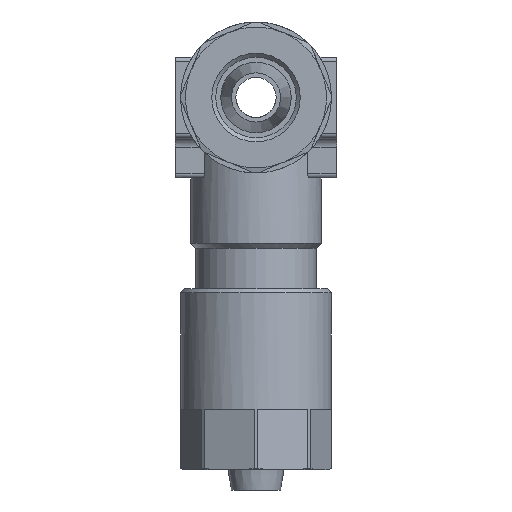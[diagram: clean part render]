
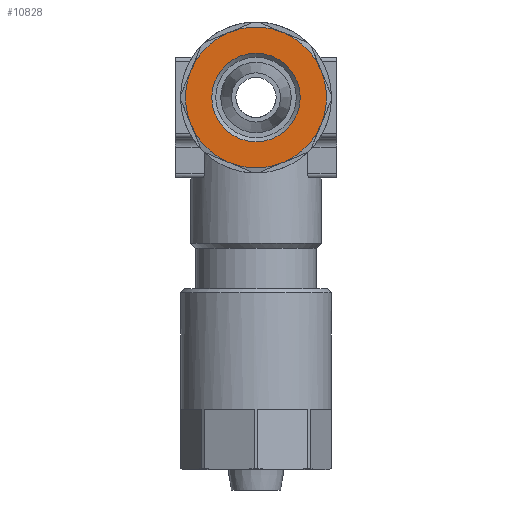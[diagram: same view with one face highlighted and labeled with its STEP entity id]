
A CAD part, left-side view. The second image highlights one B-rep face of the part: STEP entity #10828.
In plain terms, the highlighted planar face has unit normal (-1, 0, 0) as drawn and (0, 1, 0) by its records, which use the part's own axes.
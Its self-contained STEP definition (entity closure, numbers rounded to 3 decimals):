
#3971=PLANE('',#10586);
#4549=ORIENTED_EDGE('',*,*,#5352,.T.);
#4550=ORIENTED_EDGE('',*,*,#5353,.F.);
#4551=ORIENTED_EDGE('',*,*,#5354,.F.);
#4552=ORIENTED_EDGE('',*,*,#5355,.T.);
#4553=ORIENTED_EDGE('',*,*,#5356,.T.);
#4554=ORIENTED_EDGE('',*,*,#5357,.T.);
#4555=ORIENTED_EDGE('',*,*,#5358,.T.);
#4556=ORIENTED_EDGE('',*,*,#5359,.T.);
#4557=ORIENTED_EDGE('',*,*,#5351,.T.);
#4803=CIRCLE('',#10585,2.2);
#4804=CIRCLE('',#10587,3.5);
#4805=CIRCLE('',#10588,3.5);
#4806=CIRCLE('',#10589,3.5);
#4807=CIRCLE('',#10590,3.5);
#4808=CIRCLE('',#10591,3.5);
#4809=CIRCLE('',#10592,3.5);
#4810=CIRCLE('',#10593,3.5);
#4811=CIRCLE('',#10594,3.5);
#5028=VERTEX_POINT('',#10150);
#5029=VERTEX_POINT('',#10153);
#5030=VERTEX_POINT('',#10154);
#5031=VERTEX_POINT('',#10156);
#5032=VERTEX_POINT('',#10158);
#5033=VERTEX_POINT('',#10160);
#5034=VERTEX_POINT('',#10162);
#5035=VERTEX_POINT('',#10164);
#5036=VERTEX_POINT('',#10166);
#5351=EDGE_CURVE('',#5028,#5028,#4803,.T.);
#5352=EDGE_CURVE('',#5029,#5030,#4804,.T.);
#5353=EDGE_CURVE('',#5031,#5030,#4805,.T.);
#5354=EDGE_CURVE('',#5032,#5031,#4806,.T.);
#5355=EDGE_CURVE('',#5032,#5033,#4807,.T.);
#5356=EDGE_CURVE('',#5033,#5034,#4808,.T.);
#5357=EDGE_CURVE('',#5034,#5035,#4809,.T.);
#5358=EDGE_CURVE('',#5035,#5036,#4810,.T.);
#5359=EDGE_CURVE('',#5036,#5029,#4811,.T.);
#5602=EDGE_LOOP('',(#4549,#4550,#4551,#4552,#4553,#4554,#4555,#4556));
#5603=EDGE_LOOP('',(#4557));
#5820=FACE_BOUND('',#5602,.T.);
#5821=FACE_BOUND('',#5603,.T.);
#6540=DIRECTION('',(0.,-1.,0.));
#6541=DIRECTION('',(0.,0.,-2.2));
#6542=DIRECTION('',(0.,1.,0.));
#6543=DIRECTION('',(1.,0.,0.));
#6544=DIRECTION('',(0.,1.,0.));
#6545=DIRECTION('',(0.,0.,-3.5));
#6546=DIRECTION('',(0.,-1.,0.));
#6547=DIRECTION('',(0.,0.,3.5));
#6548=DIRECTION('',(0.,-1.,0.));
#6549=DIRECTION('',(0.,0.,3.5));
#6550=DIRECTION('',(0.,1.,0.));
#6551=DIRECTION('',(0.,0.,-3.5));
#6552=DIRECTION('',(0.,1.,0.));
#6553=DIRECTION('',(0.,0.,-3.5));
#6554=DIRECTION('',(0.,1.,0.));
#6555=DIRECTION('',(0.,0.,-3.5));
#6556=DIRECTION('',(0.,1.,0.));
#6557=DIRECTION('',(0.,0.,-3.5));
#6558=DIRECTION('',(0.,1.,0.));
#6559=DIRECTION('',(0.,0.,-3.5));
#10150=CARTESIAN_POINT('',(0.,9.,-2.2));
#10151=CARTESIAN_POINT('',(0.,9.,0.));
#10152=CARTESIAN_POINT('',(3.234,9.,-1.339));
#10153=CARTESIAN_POINT('',(3.234,9.,-1.339));
#10154=CARTESIAN_POINT('',(1.339,9.,-3.234));
#10155=CARTESIAN_POINT('',(0.,9.,0.));
#10156=CARTESIAN_POINT('',(-1.339,9.,-3.234));
#10157=CARTESIAN_POINT('',(0.,9.,0.));
#10158=CARTESIAN_POINT('',(-3.234,9.,-1.339));
#10159=CARTESIAN_POINT('',(0.,9.,0.));
#10160=CARTESIAN_POINT('',(-3.234,9.,1.339));
#10161=CARTESIAN_POINT('',(0.,9.,0.));
#10162=CARTESIAN_POINT('',(-1.339,9.,3.234));
#10163=CARTESIAN_POINT('',(0.,9.,0.));
#10164=CARTESIAN_POINT('',(1.339,9.,3.234));
#10165=CARTESIAN_POINT('',(0.,9.,0.));
#10166=CARTESIAN_POINT('',(3.234,9.,1.339));
#10167=CARTESIAN_POINT('',(0.,9.,0.));
#10168=CARTESIAN_POINT('',(0.,9.,0.));
#10585=AXIS2_PLACEMENT_3D('',#10151,#6540,#6541);
#10586=AXIS2_PLACEMENT_3D('',#10152,#6542,#6543);
#10587=AXIS2_PLACEMENT_3D('',#10155,#6544,#6545);
#10588=AXIS2_PLACEMENT_3D('',#10157,#6546,#6547);
#10589=AXIS2_PLACEMENT_3D('',#10159,#6548,#6549);
#10590=AXIS2_PLACEMENT_3D('',#10161,#6550,#6551);
#10591=AXIS2_PLACEMENT_3D('',#10163,#6552,#6553);
#10592=AXIS2_PLACEMENT_3D('',#10165,#6554,#6555);
#10593=AXIS2_PLACEMENT_3D('',#10167,#6556,#6557);
#10594=AXIS2_PLACEMENT_3D('',#10168,#6558,#6559);
#10828=ADVANCED_FACE('',(#5820,#5821),#3971,.T.);
